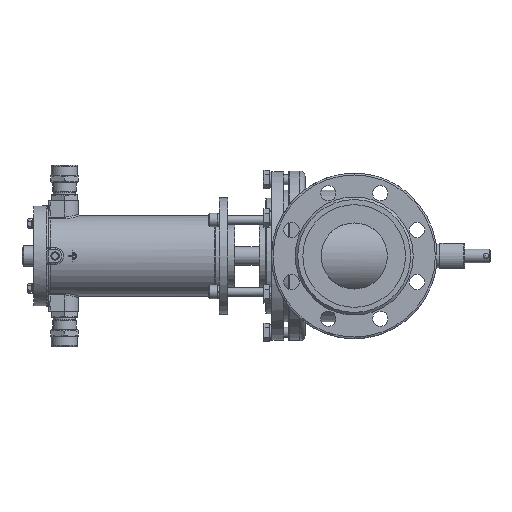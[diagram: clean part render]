
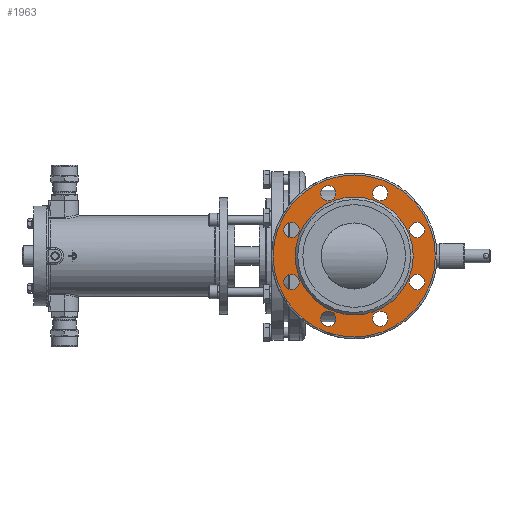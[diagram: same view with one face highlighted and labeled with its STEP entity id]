
A CAD part, left-side view. The second image highlights one B-rep face of the part: STEP entity #1963.
In plain terms, the highlighted planar face has unit normal (-1, 0, 0).
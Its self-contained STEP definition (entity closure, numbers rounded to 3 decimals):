
#1963=ADVANCED_FACE('',(#22102,#22104,#22106,#22108,#22110,#22112,#22114,#22116,
#22118,#22120),#22122,.T.);
#22102=FACE_BOUND('',#22103,.T.);
#22103=EDGE_LOOP('',(#33752));
#22104=FACE_BOUND('',#22105,.T.);
#22105=EDGE_LOOP('',(#33753));
#22106=FACE_BOUND('',#22107,.T.);
#22107=EDGE_LOOP('',(#33754));
#22108=FACE_BOUND('',#22109,.T.);
#22109=EDGE_LOOP('',(#33755));
#22110=FACE_BOUND('',#22111,.T.);
#22111=EDGE_LOOP('',(#33756));
#22112=FACE_BOUND('',#22113,.T.);
#22113=EDGE_LOOP('',(#33757));
#22114=FACE_BOUND('',#22115,.T.);
#22115=EDGE_LOOP('',(#33758));
#22116=FACE_BOUND('',#22117,.T.);
#22117=EDGE_LOOP('',(#33759));
#22118=FACE_BOUND('',#22119,.T.);
#22119=EDGE_LOOP('',(#33760));
#22120=FACE_OUTER_BOUND('',#22121,.T.);
#22121=EDGE_LOOP('',(#33761));
#22122=PLANE('',#22123);
#22123=AXIS2_PLACEMENT_3D('',#22124,#22125,#22126);
#22124=CARTESIAN_POINT('',(-151.,0.,0.));
#22125=DIRECTION('',(-1.,0.,0.));
#22126=DIRECTION('',(0.,1.,0.));
#33752=ORIENTED_EDGE('',*,*,#41784,.T.);
#33753=ORIENTED_EDGE('',*,*,#41782,.T.);
#33754=ORIENTED_EDGE('',*,*,#41780,.T.);
#33755=ORIENTED_EDGE('',*,*,#41778,.T.);
#33756=ORIENTED_EDGE('',*,*,#41776,.T.);
#33757=ORIENTED_EDGE('',*,*,#41774,.T.);
#33758=ORIENTED_EDGE('',*,*,#41772,.T.);
#33759=ORIENTED_EDGE('',*,*,#41770,.T.);
#33760=ORIENTED_EDGE('',*,*,#41809,.F.);
#33761=ORIENTED_EDGE('',*,*,#41810,.T.);
#41770=EDGE_CURVE('',#50304,#50304,#50306,.T.);
#41772=EDGE_CURVE('',#50307,#50307,#50309,.T.);
#41774=EDGE_CURVE('',#50310,#50310,#50312,.T.);
#41776=EDGE_CURVE('',#50313,#50313,#50315,.T.);
#41778=EDGE_CURVE('',#50316,#50316,#50318,.T.);
#41780=EDGE_CURVE('',#50319,#50319,#50321,.T.);
#41782=EDGE_CURVE('',#50322,#50322,#50324,.T.);
#41784=EDGE_CURVE('',#50325,#50325,#50327,.T.);
#41809=EDGE_CURVE('',#50366,#50366,#50367,.T.);
#41810=EDGE_CURVE('',#50368,#50368,#50369,.T.);
#50304=VERTEX_POINT('',#80847);
#50306=CIRCLE('',#80851,9.);
#50307=VERTEX_POINT('',#80855);
#50309=CIRCLE('',#80859,9.);
#50310=VERTEX_POINT('',#80863);
#50312=CIRCLE('',#80867,9.);
#50313=VERTEX_POINT('',#80871);
#50315=CIRCLE('',#80875,9.);
#50316=VERTEX_POINT('',#80879);
#50318=CIRCLE('',#80883,9.);
#50319=VERTEX_POINT('',#80887);
#50321=CIRCLE('',#80891,9.);
#50322=VERTEX_POINT('',#80895);
#50324=CIRCLE('',#80899,9.);
#50325=VERTEX_POINT('',#80903);
#50327=CIRCLE('',#80907,9.);
#50366=VERTEX_POINT('',#81212);
#50367=CIRCLE('',#81213,69.5);
#50368=VERTEX_POINT('',#81217);
#50369=CIRCLE('',#81218,95.5);
#80847=CARTESIAN_POINT('',(-151.,30.615,64.91));
#80851=AXIS2_PLACEMENT_3D('',#80852,#80853,#80854);
#80852=CARTESIAN_POINT('',(-151.,30.615,73.91));
#80853=DIRECTION('',(1.,0.,0.));
#80854=DIRECTION('',(0.,-1.,0.));
#80855=CARTESIAN_POINT('',(-151.,30.615,-82.91));
#80859=AXIS2_PLACEMENT_3D('',#80860,#80861,#80862);
#80860=CARTESIAN_POINT('',(-151.,30.615,-73.91));
#80861=DIRECTION('',(1.,0.,0.));
#80862=DIRECTION('',(0.,-1.,0.));
#80863=CARTESIAN_POINT('',(-151.,73.91,21.615));
#80867=AXIS2_PLACEMENT_3D('',#80868,#80869,#80870);
#80868=CARTESIAN_POINT('',(-151.,73.91,30.615));
#80869=DIRECTION('',(1.,0.,0.));
#80870=DIRECTION('',(0.,-1.,0.));
#80871=CARTESIAN_POINT('',(-151.,-30.615,-82.91));
#80875=AXIS2_PLACEMENT_3D('',#80876,#80877,#80878);
#80876=CARTESIAN_POINT('',(-151.,-30.615,-73.91));
#80877=DIRECTION('',(1.,0.,0.));
#80878=DIRECTION('',(0.,-1.,0.));
#80879=CARTESIAN_POINT('',(-151.,-73.91,21.615));
#80883=AXIS2_PLACEMENT_3D('',#80884,#80885,#80886);
#80884=CARTESIAN_POINT('',(-151.,-73.91,30.615));
#80885=DIRECTION('',(1.,0.,0.));
#80886=DIRECTION('',(0.,-1.,0.));
#80887=CARTESIAN_POINT('',(-151.,-30.615,64.91));
#80891=AXIS2_PLACEMENT_3D('',#80892,#80893,#80894);
#80892=CARTESIAN_POINT('',(-151.,-30.615,73.91));
#80893=DIRECTION('',(1.,0.,0.));
#80894=DIRECTION('',(0.,-1.,0.));
#80895=CARTESIAN_POINT('',(-151.,73.91,-39.615));
#80899=AXIS2_PLACEMENT_3D('',#80900,#80901,#80902);
#80900=CARTESIAN_POINT('',(-151.,73.91,-30.615));
#80901=DIRECTION('',(1.,0.,0.));
#80902=DIRECTION('',(0.,-1.,0.));
#80903=CARTESIAN_POINT('',(-151.,-73.91,-39.615));
#80907=AXIS2_PLACEMENT_3D('',#80908,#80909,#80910);
#80908=CARTESIAN_POINT('',(-151.,-73.91,-30.615));
#80909=DIRECTION('',(1.,0.,0.));
#80910=DIRECTION('',(0.,-1.,0.));
#81212=CARTESIAN_POINT('',(-151.,-69.5,0.));
#81213=AXIS2_PLACEMENT_3D('',#81214,#81215,#81216);
#81214=CARTESIAN_POINT('',(-151.,0.,0.));
#81215=DIRECTION('',(-1.,0.,0.));
#81216=DIRECTION('',(0.,1.,0.));
#81217=CARTESIAN_POINT('',(-151.,-95.5,0.));
#81218=AXIS2_PLACEMENT_3D('',#81219,#81220,#81221);
#81219=CARTESIAN_POINT('',(-151.,0.,0.));
#81220=DIRECTION('',(-1.,0.,0.));
#81221=DIRECTION('',(0.,1.,0.));
